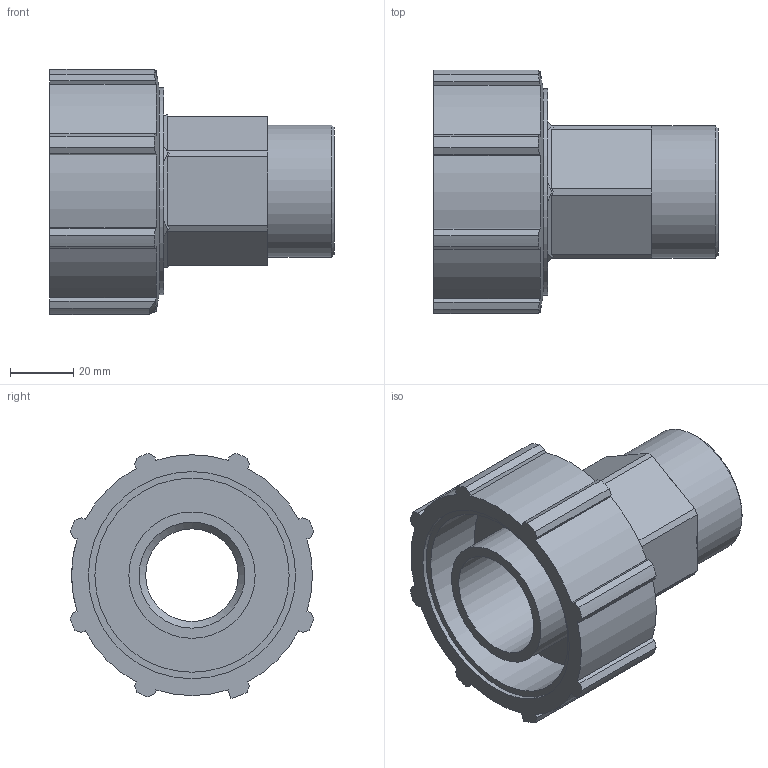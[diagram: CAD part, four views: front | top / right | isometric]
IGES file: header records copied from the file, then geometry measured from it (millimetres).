
Global section: file name: 072700040013_182700040013_72706040013.ipt; native system: Autodesk Inventor 2015; preprocessor: unknown; author: KIM; date: 20170606.172346; units: millimetre
Bounding box: 90 x 77.16 x 77.68 mm (x, y, z)
Volume: 125439.7 mm3; surface area: 44321.8 mm2
Topology: 1 solids, 1 shells, 92 faces, 258 edges, 174 vertices
Faces by surface type: plane 63, cylinder 20, revolution 6, cone 3
Full cylindrical faces by diameter (mm): 40 x1, 41.91 x1, 48.3 x1, 65.6 x1
